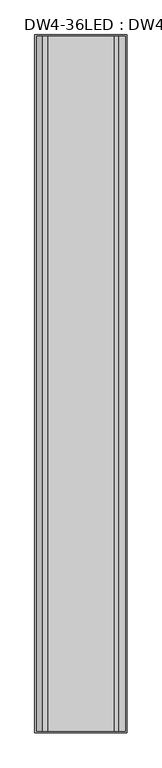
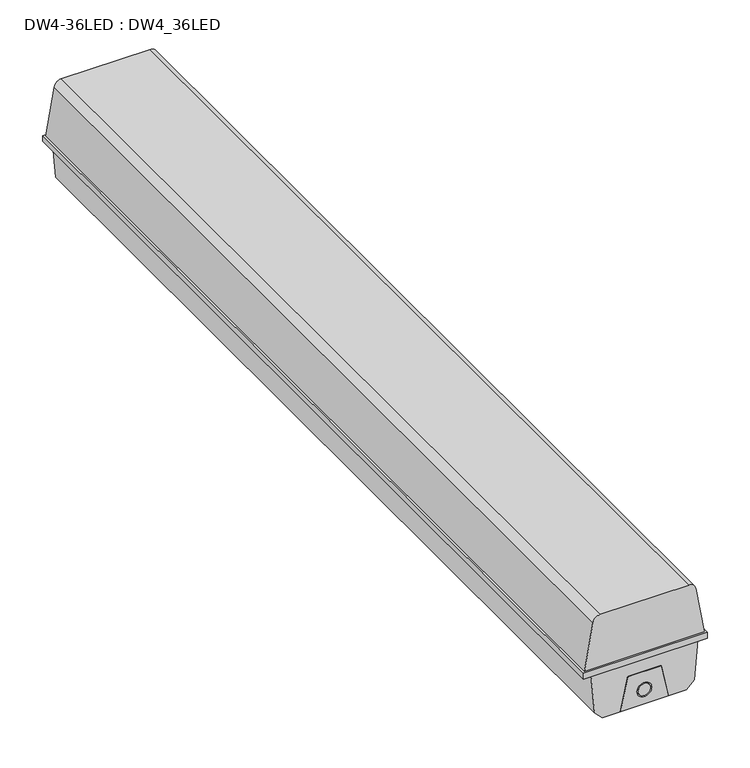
"""IFC4 building model written with IfcOpenShell, lengths in millimetres: light fixture geometry, DW4-36LED : DW4_36LED."""

from ifc_helpers import new_model, si_unit, point, frame, frame_2d, origin, place, context, project, spatial, polyline, circle_curve, trimmed, segment, composite_curve, outline, extrude, source, transform, mapped, element, save


def dw4_36led_dw4_36led_71b24324(model_context):
    return source(origin(), model_context, "Body", "SweptSolid", [
        extrude(outline(polyline([(0.0, 482.2202811), (46.8678797, 472.2582058), (46.8678797, 426.8785632), (0.0, 416.9164878), (0.0, 482.2202811)]), holes=[composite_curve([segment(trimmed(circle_curve(frame_2d((20.5560825, 449.5683845)), 10.0), [point((20.5560825, 439.5683845))], [point((20.5560825, 459.5683845))], True, "CARTESIAN"), True, "CONTINUOUS"), segment(trimmed(circle_curve(frame_2d((20.5560825, 449.5683845)), 10.0), [point((20.5560825, 459.5683845))], [point((20.5560825, 439.5683845))], True, "CARTESIAN"), True, "CONTINUOUS")], self_intersect=False)]), frame((0.0, -633.29375, 0.0), z_axis=(0.0, 1.0, 0.0), x_axis=(0.0, 0.0, 1.0)), (0.0, 0.0, 1.0), 1265.0),
        extrude(outline(composite_curve([segment(trimmed(circle_curve(frame_2d((20.5560825, 449.5683845)), 8.3472193), [point((20.5560825, 441.2211652))], [point((20.5560825, 457.9156038))], False, "CARTESIAN"), True, "CONTINUOUS"), segment(trimmed(circle_curve(frame_2d((20.5560825, 449.5683845)), 8.3472193), [point((20.5560825, 457.9156038))], [point((20.5560825, 441.2211652))], False, "CARTESIAN"), True, "CONTINUOUS")], self_intersect=False)), frame((0.0, -633.29375, 0.0), z_axis=(0.0, 1.0, 0.0), x_axis=(0.0, 0.0, 1.0)), (0.0, 0.0, 1.0), 1265.0),
        extrude(outline(polyline([(66.2834188, 377.0453975), (10.6066017, 381.9164878), (0.0, 392.5230896), (0.0, 416.9164878), (46.8678797, 426.8785632), (46.8678797, 472.2582058), (0.0, 482.2202811), (0.0, 506.6136794), (10.6066017, 517.2202811), (66.2834188, 522.0913715), (66.2834188, 377.0453975)])), frame((0.0, -633.29375, 0.0), z_axis=(0.0, 1.0, 0.0), x_axis=(0.0, 0.0, 1.0)), (0.0, 0.0, 1.0), 1265.0),
        extrude(outline(polyline([(533.5683845, -635.79375), (365.5683845, -635.79375), (365.5683845, 634.20625), (533.5683845, 634.20625), (533.5683845, -635.79375)])), frame((0.0, 0.0, 66.2834188), z_axis=(0.0, 0.0, 1.0), x_axis=(1.0, 0.0, 0.0)), (0.0, 0.0, 1.0), 8.2165812),
        extrude(outline(composite_curve([segment(polyline([(74.5, 368.0683845), (74.5, 531.0683845), (140.7364818, 519.3891056)]), True, "CONTINUOUS"), segment(trimmed(circle_curve(frame_2d((139.0, 509.5410281)), 10.0), [point((140.7364818, 519.3891056))], [point((149.0, 509.5410281))], False, "CARTESIAN"), True, "CONTINUOUS"), segment(polyline([(149.0, 509.5410281), (149.0, 389.5957409)]), True, "CONTINUOUS"), segment(trimmed(circle_curve(frame_2d((139.0, 389.5957409)), 10.0), [point((149.0, 389.5957409))], [point((140.7364818, 379.7476633))], False, "CARTESIAN"), True, "CONTINUOUS"), segment(polyline([(140.7364818, 379.7476633), (74.5, 368.0683845)]), True, "CONTINUOUS")], self_intersect=False)), frame((0.0, -633.29375, 0.0), z_axis=(0.0, 1.0, 0.0), x_axis=(0.0, 0.0, 1.0)), (0.0, 0.0, 1.0), 1265.0),
    ])


if __name__ == "__main__":
    model = new_model("IFC4")
    model_context = context("Model", 3, world=origin())
    ifc_project = project(units=[si_unit("LENGTHUNIT", "METRE", prefix="MILLI")], contexts=[model_context])
    site = spatial("IfcSite", under=ifc_project)
    building = spatial("IfcBuilding", under=site)
    placement = place(None, origin())
    dw4_36led_dw4_36led_shape = dw4_36led_dw4_36led_71b24324(model_context)
    element("IfcLightFixture", 1, ObjectType="DW4-36LED : DW4_36LED", at=placement, inside=building, context=model_context, shape_type="MappedRepresentation", body=[
        mapped(dw4_36led_dw4_36led_shape, transform((0.0, 0.0, 0.0), x_axis=(1.0, 0.0, 0.0), y_axis=(0.0, 1.0, 0.0), z_axis=(0.0, 0.0, 1.0))),
    ])
    save(model, "model.ifc")
